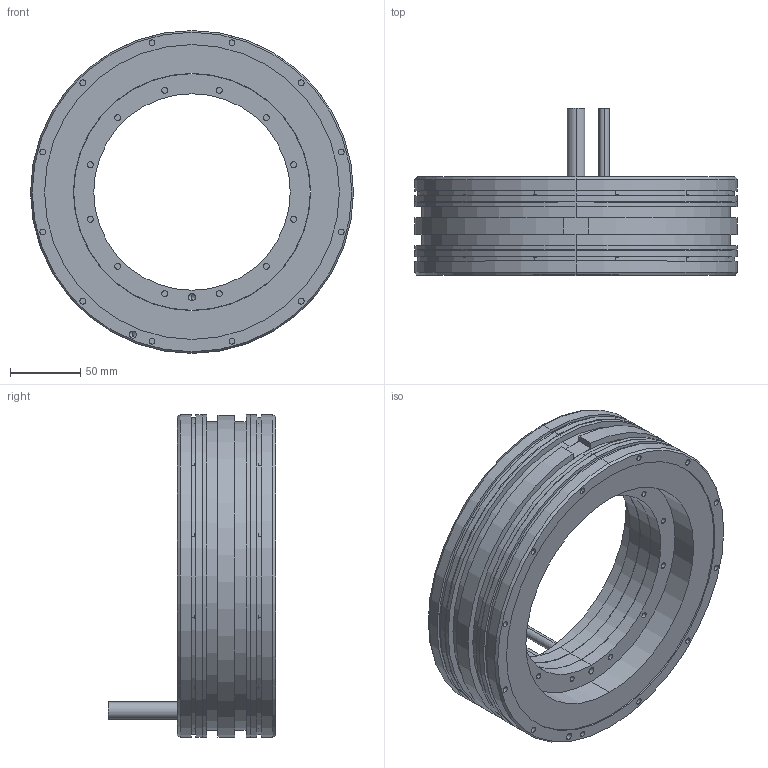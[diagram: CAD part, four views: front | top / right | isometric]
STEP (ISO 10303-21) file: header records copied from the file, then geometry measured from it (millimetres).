
FILE_DESCRIPTION (( 'STEP AP203' ), '1' );
FILE_NAME ('TM-2-43.STEP', '2020-10-20T05:43:01', ( '' ), ( '' ), 'SwSTEP 2.0', 'SolidWorks 2015', '' );
FILE_SCHEMA (( 'CONFIG_CONTROL_DESIGN' ));
Length unit declared in the file: millimetre
Products named in the file (3): TM-2-4X_rotor_TM-2-43_rotor; TM-2-43; TM-2-4X_stator_TM-2-43_stator
Assembly tree (2 placements, depth 2):
  TM-2-43
    TM-2-4X_stator_TM-2-43_stator
    TM-2-4X_rotor_TM-2-43_rotor
Bounding box: 230 x 119 x 230 mm (x, y, z)
Volume: 1454543.5 mm3; surface area: 199465 mm2
Topology: 2 solids, 2 shells, 229 faces, 471 edges, 302 vertices
Faces by surface type: cylinder 144, plane 69, cone 16
Entity records: 6422 total; most frequent: DIRECTION 1223, CARTESIAN_POINT 999, ORIENTED_EDGE 926, AXIS2_PLACEMENT_3D 526, EDGE_CURVE 463, VERTEX_POINT 302, EDGE_LOOP 297, CIRCLE 292
